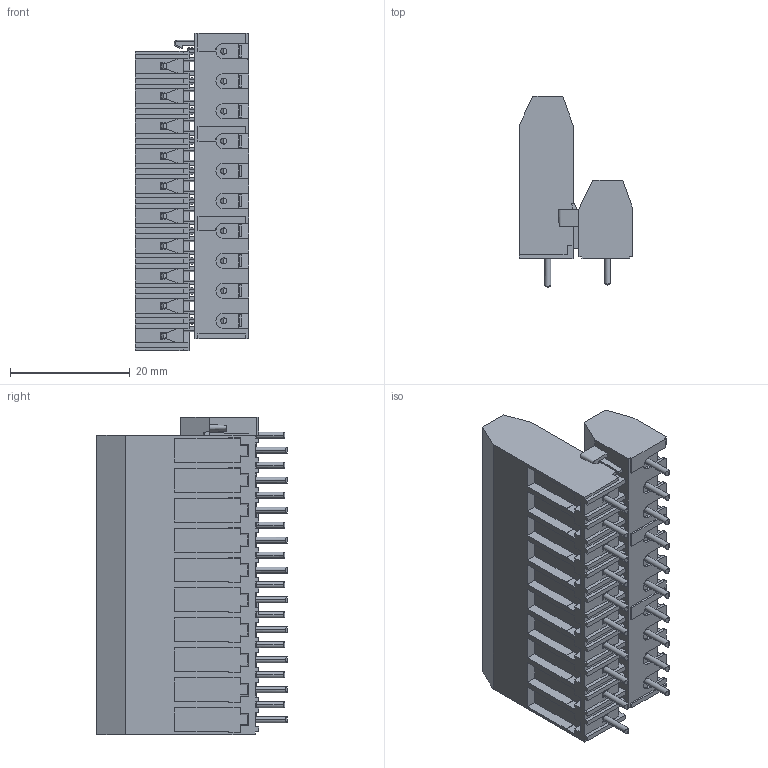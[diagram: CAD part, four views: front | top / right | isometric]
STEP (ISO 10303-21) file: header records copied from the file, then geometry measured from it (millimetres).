
FILE_DESCRIPTION (( 'STEP AP203' ), '1' );
FILE_NAME ('978-EN-DS-20.STEP', '2017-02-06T17:40:23', ( '' ), ( '' ), 'SwSTEP 2.0', 'SolidWorks 2016', '' );
FILE_SCHEMA (( 'CONFIG_CONTROL_DESIGN' ));
Length unit declared in the file: millimetre
Products named in the file (1): 978-EN-DS-20
Bounding box: 19 x 31.8 x 53 mm (x, y, z)
Volume: 14252.4 mm3; surface area: 10807 mm2
Topology: 1 solids, 1 shells, 2381 faces, 6772 edges, 4426 vertices
Faces by surface type: plane 1908, cylinder 353, cone 90, bspline 30
Entity records: 78318 total; most frequent: CARTESIAN_POINT 16621, ORIENTED_EDGE 13544, DIRECTION 11815, EDGE_CURVE 6772, LINE 5455, VECTOR 5455, VERTEX_POINT 4426, AXIS2_PLACEMENT_3D 3180
